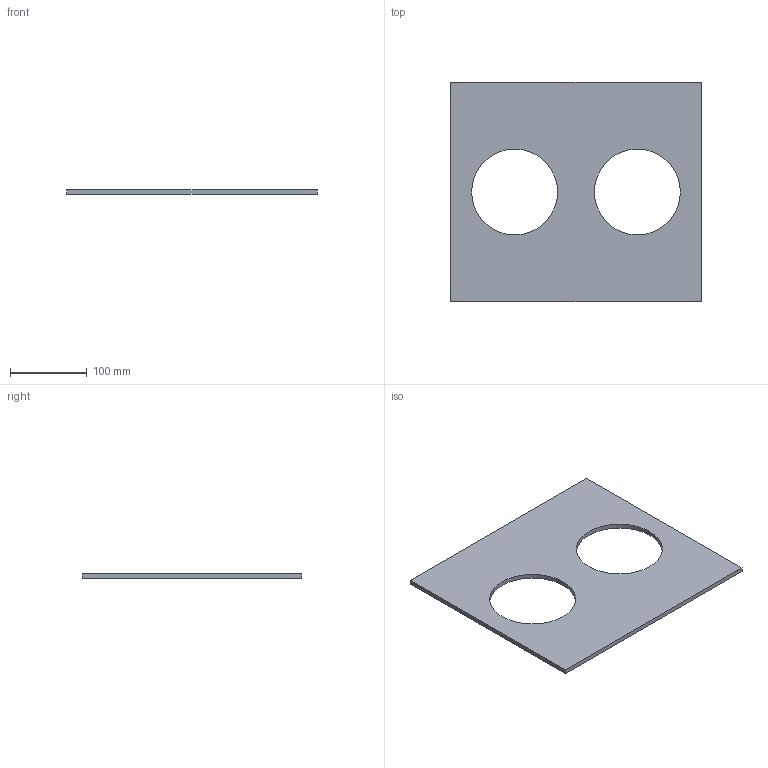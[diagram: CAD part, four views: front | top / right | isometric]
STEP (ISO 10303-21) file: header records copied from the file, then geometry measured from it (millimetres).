
FILE_DESCRIPTION(('Open CASCADE Model'),'2;1');
FILE_NAME('Open CASCADE Shape Model','2026-10-16T18:52:00',('Author'),( 'Open CASCADE'),'Open CASCADE STEP processor 7.8','Open CASCADE 7.8' ,'Unknown');
FILE_SCHEMA(('AUTOMOTIVE_DESIGN { 1 0 10303 214 1 1 1 1 }'));
Length unit declared in the file: millimetre
Products named in the file (1): Open CASCADE STEP translator 7.8 11
Bounding box: 326 x 286 x 6 mm (x, y, z)
Volume: 441191.6 mm3; surface area: 158630.2 mm2
Topology: 1 solids, 1 shells, 8 faces, 18 edges, 12 vertices
Faces by surface type: plane 6, cylinder 2
Full cylindrical faces by diameter (mm): 112 x2
Entity records: 490 total; most frequent: CARTESIAN_POINT 99, DIRECTION 72, LINE 46, VECTOR 46, ORIENTED_EDGE 36, PCURVE 36, DEFINITIONAL_REPRESENTATION 36, EDGE_CURVE 18
